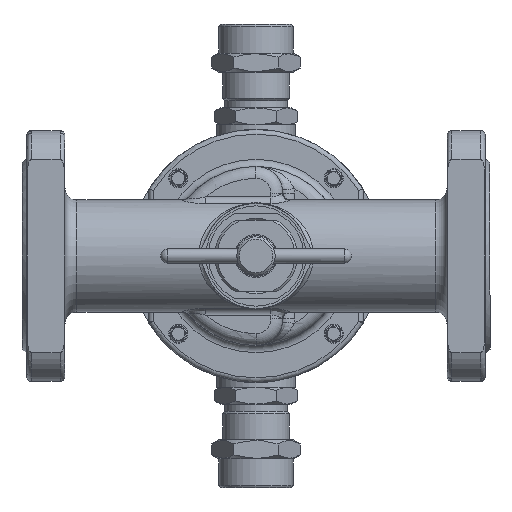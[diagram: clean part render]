
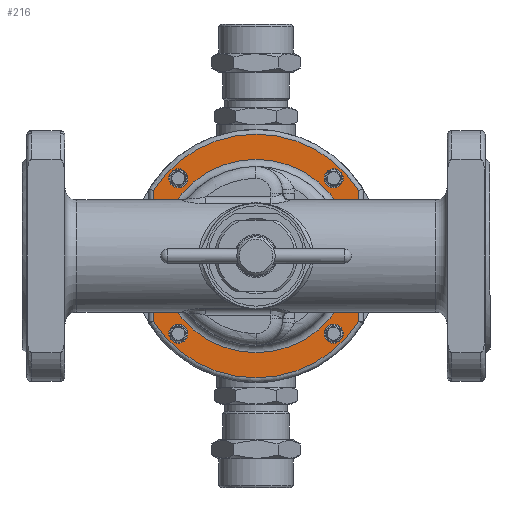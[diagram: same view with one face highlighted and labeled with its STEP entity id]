
A CAD part, front view. The second image highlights one B-rep face of the part: STEP entity #216.
In plain terms, the highlighted planar face has unit normal (0, -1, 0).
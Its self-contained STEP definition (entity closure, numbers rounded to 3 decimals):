
#216=ADVANCED_FACE('',(#5287,#5289,#5291,#5293,#5295,#5297),#5299,.F.);
#5287=FACE_BOUND('',#5288,.T.);
#5288=EDGE_LOOP('',(#22061));
#5289=FACE_BOUND('',#5290,.T.);
#5290=EDGE_LOOP('',(#22062));
#5291=FACE_BOUND('',#5292,.T.);
#5292=EDGE_LOOP('',(#22063));
#5293=FACE_BOUND('',#5294,.T.);
#5294=EDGE_LOOP('',(#22064));
#5295=FACE_BOUND('',#5296,.T.);
#5296=EDGE_LOOP('',(#22065));
#5297=FACE_OUTER_BOUND('',#5298,.T.);
#5298=EDGE_LOOP('',(#22066,#22067,#22068,#22069));
#5299=PLANE('',#5300);
#5300=AXIS2_PLACEMENT_3D('',#5301,#5302,#5303);
#5301=CARTESIAN_POINT('',(0.,30.,0.));
#5302=DIRECTION('',(0.,1.,0.));
#5303=DIRECTION('',(-1.,0.,0.));
#22061=ORIENTED_EDGE('',*,*,#33845,.F.);
#22062=ORIENTED_EDGE('',*,*,#33846,.F.);
#22063=ORIENTED_EDGE('',*,*,#33847,.F.);
#22064=ORIENTED_EDGE('',*,*,#33848,.F.);
#22065=ORIENTED_EDGE('',*,*,#33849,.F.);
#22066=ORIENTED_EDGE('',*,*,#33806,.F.);
#22067=ORIENTED_EDGE('',*,*,#33814,.F.);
#22068=ORIENTED_EDGE('',*,*,#33811,.F.);
#22069=ORIENTED_EDGE('',*,*,#33809,.F.);
#33806=EDGE_CURVE('',#38836,#38838,#38839,.T.);
#33809=EDGE_CURVE('',#38838,#38842,#38843,.T.);
#33811=EDGE_CURVE('',#38842,#38845,#38846,.T.);
#33814=EDGE_CURVE('',#38845,#38836,#38849,.T.);
#33845=EDGE_CURVE('',#38904,#38904,#38905,.T.);
#33846=EDGE_CURVE('',#38906,#38906,#38907,.T.);
#33847=EDGE_CURVE('',#38908,#38908,#38909,.T.);
#33848=EDGE_CURVE('',#38910,#38910,#38911,.T.);
#33849=EDGE_CURVE('',#38912,#38912,#38913,.T.);
#38836=VERTEX_POINT('',#47644);
#38838=VERTEX_POINT('',#47659);
#38839=CIRCLE('',#47660,51.);
#38842=VERTEX_POINT('',#47692);
#38843=LINE('',#47693,#47694);
#38845=VERTEX_POINT('',#47715);
#38846=CIRCLE('',#47716,51.);
#38849=LINE('',#47753,#47754);
#38904=VERTEX_POINT('',#48272);
#38905=CIRCLE('',#48273,4.);
#38906=VERTEX_POINT('',#48277);
#38907=CIRCLE('',#48278,4.);
#38908=VERTEX_POINT('',#48282);
#38909=CIRCLE('',#48283,40.5);
#38910=VERTEX_POINT('',#48287);
#38911=CIRCLE('',#48288,4.);
#38912=VERTEX_POINT('',#48292);
#38913=CIRCLE('',#48293,4.);
#47644=CARTESIAN_POINT('',(43.,30.,-27.423));
#47659=CARTESIAN_POINT('',(-43.,30.,-27.423));
#47660=AXIS2_PLACEMENT_3D('',#47661,#47662,#47663);
#47661=CARTESIAN_POINT('',(0.,30.,0.));
#47662=DIRECTION('',(0.,1.,0.));
#47663=DIRECTION('',(0.843,0.,-0.538));
#47692=CARTESIAN_POINT('',(-43.,30.,27.423));
#47693=CARTESIAN_POINT('',(-43.,30.,-27.423));
#47694=VECTOR('',#47695,1.);
#47695=DIRECTION('',(0.,0.,1.));
#47715=CARTESIAN_POINT('',(43.,30.,27.423));
#47716=AXIS2_PLACEMENT_3D('',#47717,#47718,#47719);
#47717=CARTESIAN_POINT('',(0.,30.,0.));
#47718=DIRECTION('',(0.,1.,0.));
#47719=DIRECTION('',(-0.843,0.,0.538));
#47753=CARTESIAN_POINT('',(43.,30.,27.423));
#47754=VECTOR('',#47755,1.);
#47755=DIRECTION('',(0.,0.,-1.));
#48272=CARTESIAN_POINT('',(-30.567,30.,29.04));
#48273=AXIS2_PLACEMENT_3D('',#48274,#48275,#48276);
#48274=CARTESIAN_POINT('',(-32.527,30.,32.527));
#48275=DIRECTION('',(0.,-1.,0.));
#48276=DIRECTION('',(0.49,0.,-0.872));
#48277=CARTESIAN_POINT('',(29.04,30.,30.567));
#48278=AXIS2_PLACEMENT_3D('',#48279,#48280,#48281);
#48279=CARTESIAN_POINT('',(32.527,30.,32.527));
#48280=DIRECTION('',(0.,-1.,0.));
#48281=DIRECTION('',(-0.872,0.,-0.49));
#48282=CARTESIAN_POINT('',(-40.5,30.,0.));
#48283=AXIS2_PLACEMENT_3D('',#48284,#48285,#48286);
#48284=CARTESIAN_POINT('',(0.,30.,0.));
#48285=DIRECTION('',(0.,-1.,0.));
#48286=DIRECTION('',(-1.,0.,0.));
#48287=CARTESIAN_POINT('',(-29.04,30.,-30.567));
#48288=AXIS2_PLACEMENT_3D('',#48289,#48290,#48291);
#48289=CARTESIAN_POINT('',(-32.527,30.,-32.527));
#48290=DIRECTION('',(0.,-1.,0.));
#48291=DIRECTION('',(0.872,0.,0.49));
#48292=CARTESIAN_POINT('',(30.567,30.,-29.04));
#48293=AXIS2_PLACEMENT_3D('',#48294,#48295,#48296);
#48294=CARTESIAN_POINT('',(32.527,30.,-32.527));
#48295=DIRECTION('',(0.,-1.,0.));
#48296=DIRECTION('',(-0.49,0.,0.872));
